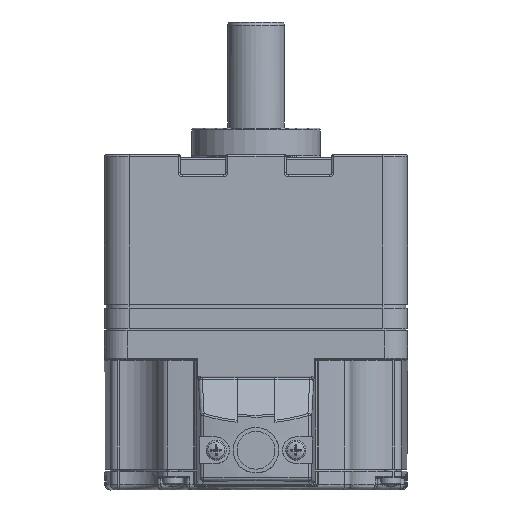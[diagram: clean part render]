
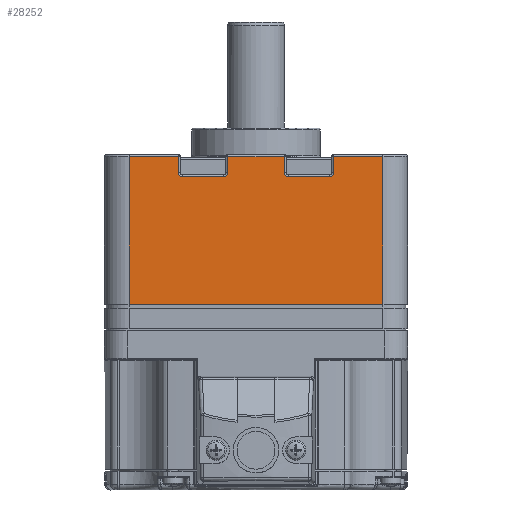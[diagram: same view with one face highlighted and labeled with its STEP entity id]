
A CAD part, front view. The second image highlights one B-rep face of the part: STEP entity #28252.
In plain terms, the highlighted planar face has unit normal (0, -1, 0).
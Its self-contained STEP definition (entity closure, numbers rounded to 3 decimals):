
#27959=CARTESIAN_POINT('',(-6.5,0.,106.732));
#27960=VERTEX_POINT('',#27959);
#27970=CARTESIAN_POINT('',(-6.5,0.,67.732));
#27971=VERTEX_POINT('',#27970);
#27972=CARTESIAN_POINT('',(-6.5,0.,106.732));
#27973=DIRECTION('',(0.0,0.0,-1.0));
#27974=VECTOR('',#27973,39.);
#27975=LINE('',#27972,#27974);
#27976=EDGE_CURVE('',#27960,#27971,#27975,.T.);
#28003=CARTESIAN_POINT('',(-73.5,0.,106.732));
#28004=VERTEX_POINT('',#28003);
#28020=CARTESIAN_POINT('',(-73.5,0.,67.732));
#28021=VERTEX_POINT('',#28020);
#28029=CARTESIAN_POINT('',(-73.5,0.,67.732));
#28030=DIRECTION('',(0.0,0.0,1.0));
#28031=VECTOR('',#28030,39.);
#28032=LINE('',#28029,#28031);
#28033=EDGE_CURVE('',#28021,#28004,#28032,.T.);
#28078=CARTESIAN_POINT('',(-73.5,0.,67.732));
#28079=DIRECTION('',(1.0,0.0,0.0));
#28080=VECTOR('',#28079,67.);
#28081=LINE('',#28078,#28080);
#28082=EDGE_CURVE('',#28021,#27971,#28081,.T.);
#28136=CARTESIAN_POINT('',(-80.,0.,107.232));
#28137=DIRECTION('',(0.0,-1.0,0.0));
#28138=DIRECTION('',(0.0,0.0,-1.0));
#28139=AXIS2_PLACEMENT_3D('',#28136,#28137,#28138);
#28140=PLANE('',#28139);
#28141=CARTESIAN_POINT('',(-19.5,0.,106.732));
#28142=VERTEX_POINT('',#28141);
#28143=CARTESIAN_POINT('',(-19.5,0.,106.732));
#28144=DIRECTION('',(1.0,0.0,0.0));
#28145=VECTOR('',#28144,13.);
#28146=LINE('',#28143,#28145);
#28147=EDGE_CURVE('',#28142,#27960,#28146,.T.);
#28148=ORIENTED_EDGE('',*,*,#28147,.F.);
#28149=CARTESIAN_POINT('',(-19.5,0.,102.432));
#28150=VERTEX_POINT('',#28149);
#28151=CARTESIAN_POINT('',(-19.5,0.,102.432));
#28152=DIRECTION('',(0.0,0.0,1.0));
#28153=VECTOR('',#28152,4.3);
#28154=LINE('',#28151,#28153);
#28155=EDGE_CURVE('',#28150,#28142,#28154,.T.);
#28156=ORIENTED_EDGE('',*,*,#28155,.F.);
#28157=CARTESIAN_POINT('',(-20.5,0.,101.432));
#28158=VERTEX_POINT('',#28157);
#28159=CARTESIAN_POINT('',(-20.5,0.,102.432));
#28160=DIRECTION('',(0.,-1.,0.));
#28161=DIRECTION('',(0.707,0.,-0.707));
#28162=AXIS2_PLACEMENT_3D('',#28159,#28160,#28161);
#28163=CIRCLE('',#28162,1.0);
#28164=EDGE_CURVE('',#28158,#28150,#28163,.T.);
#28165=ORIENTED_EDGE('',*,*,#28164,.F.);
#28166=CARTESIAN_POINT('',(-31.5,0.,101.432));
#28167=VERTEX_POINT('',#28166);
#28168=CARTESIAN_POINT('',(-31.5,0.,101.432));
#28169=DIRECTION('',(1.0,0.0,0.0));
#28170=VECTOR('',#28169,11.);
#28171=LINE('',#28168,#28170);
#28172=EDGE_CURVE('',#28167,#28158,#28171,.T.);
#28173=ORIENTED_EDGE('',*,*,#28172,.F.);
#28174=CARTESIAN_POINT('',(-32.5,0.,102.432));
#28175=VERTEX_POINT('',#28174);
#28176=CARTESIAN_POINT('',(-31.5,0.,102.432));
#28177=DIRECTION('',(0.,-1.0,0.));
#28178=DIRECTION('',(-0.707,0.,-0.707));
#28179=AXIS2_PLACEMENT_3D('',#28176,#28177,#28178);
#28180=CIRCLE('',#28179,1.);
#28181=EDGE_CURVE('',#28175,#28167,#28180,.T.);
#28182=ORIENTED_EDGE('',*,*,#28181,.F.);
#28183=CARTESIAN_POINT('',(-32.5,0.,106.732));
#28184=VERTEX_POINT('',#28183);
#28185=CARTESIAN_POINT('',(-32.5,0.,106.732));
#28186=DIRECTION('',(0.0,0.0,-1.0));
#28187=VECTOR('',#28186,4.3);
#28188=LINE('',#28185,#28187);
#28189=EDGE_CURVE('',#28184,#28175,#28188,.T.);
#28190=ORIENTED_EDGE('',*,*,#28189,.F.);
#28191=CARTESIAN_POINT('',(-47.5,0.,106.732));
#28192=VERTEX_POINT('',#28191);
#28193=CARTESIAN_POINT('',(-47.5,0.,106.732));
#28194=DIRECTION('',(1.0,0.0,0.0));
#28195=VECTOR('',#28194,15.0);
#28196=LINE('',#28193,#28195);
#28197=EDGE_CURVE('',#28192,#28184,#28196,.T.);
#28198=ORIENTED_EDGE('',*,*,#28197,.F.);
#28199=CARTESIAN_POINT('',(-47.5,0.,102.432));
#28200=VERTEX_POINT('',#28199);
#28201=CARTESIAN_POINT('',(-47.5,0.,102.432));
#28202=DIRECTION('',(0.0,0.0,1.0));
#28203=VECTOR('',#28202,4.3);
#28204=LINE('',#28201,#28203);
#28205=EDGE_CURVE('',#28200,#28192,#28204,.T.);
#28206=ORIENTED_EDGE('',*,*,#28205,.F.);
#28207=CARTESIAN_POINT('',(-48.5,0.,101.432));
#28208=VERTEX_POINT('',#28207);
#28209=CARTESIAN_POINT('',(-48.5,0.,102.432));
#28210=DIRECTION('',(0.,-1.,0.));
#28211=DIRECTION('',(0.707,0.,-0.707));
#28212=AXIS2_PLACEMENT_3D('',#28209,#28210,#28211);
#28213=CIRCLE('',#28212,1.0);
#28214=EDGE_CURVE('',#28208,#28200,#28213,.T.);
#28215=ORIENTED_EDGE('',*,*,#28214,.F.);
#28216=CARTESIAN_POINT('',(-59.5,0.,101.432));
#28217=VERTEX_POINT('',#28216);
#28218=CARTESIAN_POINT('',(-59.5,0.,101.432));
#28219=DIRECTION('',(1.0,0.0,0.0));
#28220=VECTOR('',#28219,11.0);
#28221=LINE('',#28218,#28220);
#28222=EDGE_CURVE('',#28217,#28208,#28221,.T.);
#28223=ORIENTED_EDGE('',*,*,#28222,.F.);
#28224=CARTESIAN_POINT('',(-60.5,0.,102.432));
#28225=VERTEX_POINT('',#28224);
#28226=CARTESIAN_POINT('',(-59.5,0.,102.432));
#28227=DIRECTION('',(0.,-1.0,0.));
#28228=DIRECTION('',(-0.707,0.,-0.707));
#28229=AXIS2_PLACEMENT_3D('',#28226,#28227,#28228);
#28230=CIRCLE('',#28229,1.0);
#28231=EDGE_CURVE('',#28225,#28217,#28230,.T.);
#28232=ORIENTED_EDGE('',*,*,#28231,.F.);
#28233=CARTESIAN_POINT('',(-60.5,0.,106.732));
#28234=VERTEX_POINT('',#28233);
#28235=CARTESIAN_POINT('',(-60.5,0.,106.732));
#28236=DIRECTION('',(0.0,0.0,-1.0));
#28237=VECTOR('',#28236,4.3);
#28238=LINE('',#28235,#28237);
#28239=EDGE_CURVE('',#28234,#28225,#28238,.T.);
#28240=ORIENTED_EDGE('',*,*,#28239,.F.);
#28241=CARTESIAN_POINT('',(-73.5,0.,106.732));
#28242=DIRECTION('',(1.0,0.0,0.0));
#28243=VECTOR('',#28242,13.);
#28244=LINE('',#28241,#28243);
#28245=EDGE_CURVE('',#28004,#28234,#28244,.T.);
#28246=ORIENTED_EDGE('',*,*,#28245,.F.);
#28247=ORIENTED_EDGE('',*,*,#28033,.F.);
#28248=ORIENTED_EDGE('',*,*,#28082,.T.);
#28249=ORIENTED_EDGE('',*,*,#27976,.F.);
#28250=EDGE_LOOP('',(#28148,#28156,#28165,#28173,#28182,#28190,#28198,#28206,#28215,#28223,#28232,#28240,#28246,#28247,#28248,#28249));
#28251=FACE_OUTER_BOUND('',#28250,.T.);
#28252=ADVANCED_FACE('',(#28251),#28140,.T.);
